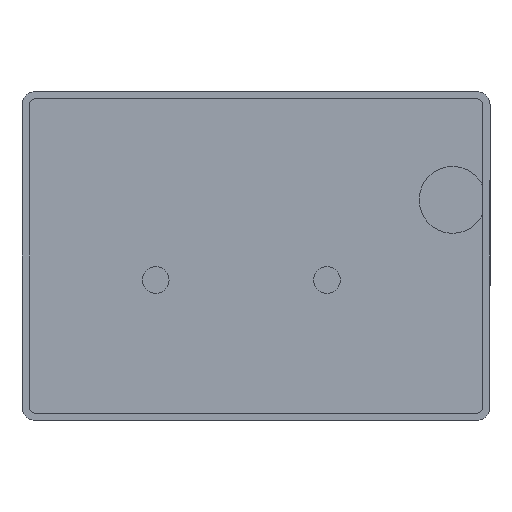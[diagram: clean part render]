
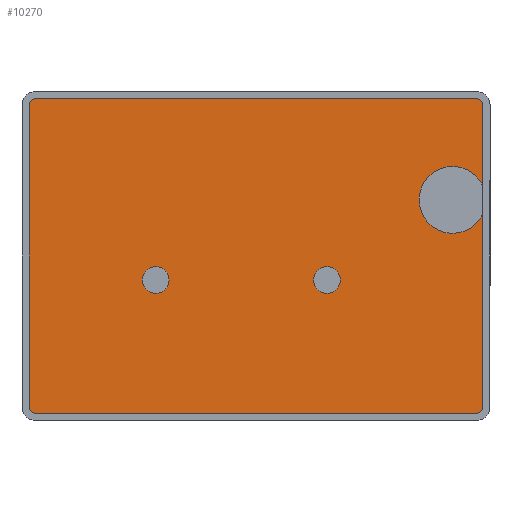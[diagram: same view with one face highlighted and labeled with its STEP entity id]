
A CAD part, front view. The second image highlights one B-rep face of the part: STEP entity #10270.
In plain terms, the highlighted planar face has unit normal (0, -1, 0).
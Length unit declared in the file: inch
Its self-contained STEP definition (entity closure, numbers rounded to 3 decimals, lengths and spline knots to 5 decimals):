
#693=FACE_BOUND('',#1650,.T.);
#694=FACE_BOUND('',#1651,.T.);
#759=PLANE('',#11077);
#1063=FACE_OUTER_BOUND('',#1649,.T.);
#1649=EDGE_LOOP('',(#7072,#7073,#7074,#7075,#7076,#7077,#7078,#7079,#7080,
#7081));
#1650=EDGE_LOOP('',(#7082));
#1651=EDGE_LOOP('',(#7083));
#2277=CIRCLE('',#11056,0.25);
#2281=CIRCLE('',#11072,0.1);
#2283=CIRCLE('',#11075,0.1);
#2285=CIRCLE('',#11078,0.045);
#2286=CIRCLE('',#11079,0.045);
#2287=CIRCLE('',#11080,0.045);
#2288=CIRCLE('',#11081,0.045);
#2456=LINE('',#13987,#3437);
#2460=LINE('',#13994,#3441);
#2489=LINE('',#14065,#3470);
#2490=LINE('',#14069,#3471);
#2491=LINE('',#14073,#3472);
#3437=VECTOR('',#11719,0.3937);
#3441=VECTOR('',#11723,0.3937);
#3470=VECTOR('',#11786,0.3937);
#3471=VECTOR('',#11789,0.3937);
#3472=VECTOR('',#11792,0.3937);
#4415=VERTEX_POINT('',#13972);
#4417=VERTEX_POINT('',#13975);
#4420=VERTEX_POINT('',#13986);
#4423=VERTEX_POINT('',#13992);
#4443=VERTEX_POINT('',#14050);
#4445=VERTEX_POINT('',#14056);
#4447=VERTEX_POINT('',#14062);
#4448=VERTEX_POINT('',#14064);
#4449=VERTEX_POINT('',#14066);
#4450=VERTEX_POINT('',#14068);
#4451=VERTEX_POINT('',#14070);
#4452=VERTEX_POINT('',#14072);
#5449=EDGE_CURVE('',#4417,#4415,#2277,.T.);
#5454=EDGE_CURVE('',#4417,#4420,#2456,.T.);
#5458=EDGE_CURVE('',#4423,#4415,#2460,.T.);
#5486=EDGE_CURVE('',#4443,#4443,#2281,.T.);
#5489=EDGE_CURVE('',#4445,#4445,#2283,.T.);
#5492=EDGE_CURVE('',#4423,#4447,#2285,.F.);
#5493=EDGE_CURVE('',#4448,#4447,#2489,.T.);
#5494=EDGE_CURVE('',#4448,#4449,#2286,.F.);
#5495=EDGE_CURVE('',#4450,#4449,#2490,.T.);
#5496=EDGE_CURVE('',#4450,#4451,#2287,.F.);
#5497=EDGE_CURVE('',#4452,#4451,#2491,.T.);
#5498=EDGE_CURVE('',#4452,#4420,#2288,.F.);
#7072=ORIENTED_EDGE('',*,*,#5449,.T.);
#7073=ORIENTED_EDGE('',*,*,#5458,.F.);
#7074=ORIENTED_EDGE('',*,*,#5492,.T.);
#7075=ORIENTED_EDGE('',*,*,#5493,.F.);
#7076=ORIENTED_EDGE('',*,*,#5494,.T.);
#7077=ORIENTED_EDGE('',*,*,#5495,.F.);
#7078=ORIENTED_EDGE('',*,*,#5496,.T.);
#7079=ORIENTED_EDGE('',*,*,#5497,.F.);
#7080=ORIENTED_EDGE('',*,*,#5498,.T.);
#7081=ORIENTED_EDGE('',*,*,#5454,.F.);
#7082=ORIENTED_EDGE('',*,*,#5486,.T.);
#7083=ORIENTED_EDGE('',*,*,#5489,.T.);
#10270=ADVANCED_FACE('',(#1063,#693,#694),#759,.F.);
#11056=AXIS2_PLACEMENT_3D('',#13976,#11705,#11706);
#11072=AXIS2_PLACEMENT_3D('',#14051,#11770,#11771);
#11075=AXIS2_PLACEMENT_3D('',#14057,#11777,#11778);
#11077=AXIS2_PLACEMENT_3D('',#14061,#11782,#11783);
#11078=AXIS2_PLACEMENT_3D('',#14063,#11784,#11785);
#11079=AXIS2_PLACEMENT_3D('',#14067,#11787,#11788);
#11080=AXIS2_PLACEMENT_3D('',#14071,#11790,#11791);
#11081=AXIS2_PLACEMENT_3D('',#14074,#11793,#11794);
#11705=DIRECTION('center_axis',(0.,1.,0.));
#11706=DIRECTION('ref_axis',(-1.,0.,0.));
#11719=DIRECTION('',(0.,0.,-1.));
#11723=DIRECTION('',(0.,0.,-1.));
#11770=DIRECTION('center_axis',(0.,1.,0.));
#11771=DIRECTION('ref_axis',(-1.,0.,0.));
#11777=DIRECTION('center_axis',(0.,1.,0.));
#11778=DIRECTION('ref_axis',(-1.,0.,0.));
#11782=DIRECTION('center_axis',(0.,1.,0.));
#11783=DIRECTION('ref_axis',(0.,0.,1.));
#11784=DIRECTION('center_axis',(0.,1.,0.));
#11785=DIRECTION('ref_axis',(0.707,0.,0.707));
#11786=DIRECTION('',(1.,0.,0.));
#11787=DIRECTION('center_axis',(0.,1.,0.));
#11788=DIRECTION('ref_axis',(-0.707,0.,0.707));
#11789=DIRECTION('',(0.,0.,1.));
#11790=DIRECTION('center_axis',(0.,1.,0.));
#11791=DIRECTION('ref_axis',(-0.707,0.,-0.707));
#11792=DIRECTION('',(-1.,0.,0.));
#11793=DIRECTION('center_axis',(0.,1.,0.));
#11794=DIRECTION('ref_axis',(0.707,0.,-0.707));
#13972=CARTESIAN_POINT('',(-0.055,0.335,-0.70103));
#13975=CARTESIAN_POINT('',(-0.055,0.335,-0.91897));
#13976=CARTESIAN_POINT('Origin',(-0.28,0.335,-0.81));
#13986=CARTESIAN_POINT('',(-0.055,0.335,-2.36));
#13987=CARTESIAN_POINT('',(-0.055,0.335,-0.615));
#13992=CARTESIAN_POINT('',(-0.055,0.335,-0.1));
#13994=CARTESIAN_POINT('',(-0.055,0.335,-0.615));
#14050=CARTESIAN_POINT('',(-1.12,0.335,-1.41));
#14051=CARTESIAN_POINT('Origin',(-1.22,0.335,-1.41));
#14056=CARTESIAN_POINT('',(-2.4,0.335,-1.41));
#14057=CARTESIAN_POINT('Origin',(-2.5,0.335,-1.41));
#14061=CARTESIAN_POINT('Origin',(-1.75,0.335,-1.23));
#14062=CARTESIAN_POINT('',(-0.1,0.335,-0.055));
#14063=CARTESIAN_POINT('Origin',(-0.1,0.335,-0.1));
#14064=CARTESIAN_POINT('',(-3.4,0.335,-0.055));
#14065=CARTESIAN_POINT('',(-2.625,0.335,-0.055));
#14066=CARTESIAN_POINT('',(-3.445,0.335,-0.1));
#14067=CARTESIAN_POINT('Origin',(-3.4,0.335,-0.1));
#14068=CARTESIAN_POINT('',(-3.445,0.335,-2.36));
#14069=CARTESIAN_POINT('',(-3.445,0.335,-1.845));
#14070=CARTESIAN_POINT('',(-3.4,0.335,-2.405));
#14071=CARTESIAN_POINT('Origin',(-3.4,0.335,-2.36));
#14072=CARTESIAN_POINT('',(-0.1,0.335,-2.405));
#14073=CARTESIAN_POINT('',(-0.875,0.335,-2.405));
#14074=CARTESIAN_POINT('Origin',(-0.1,0.335,-2.36));
